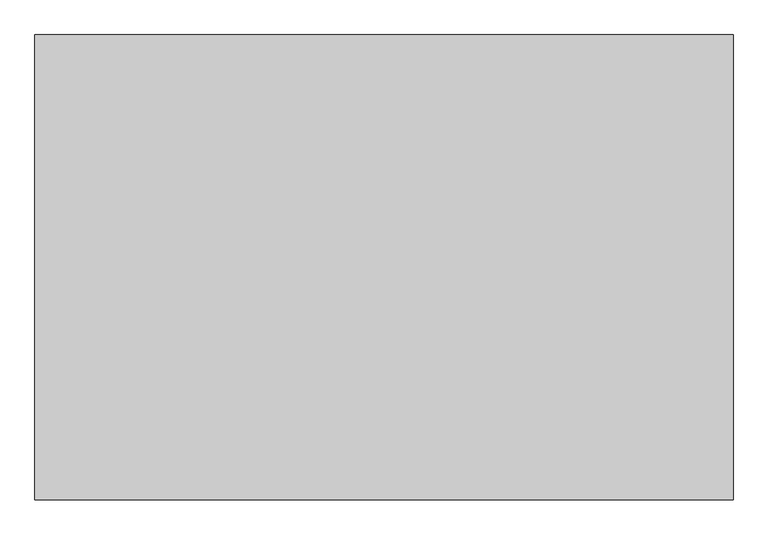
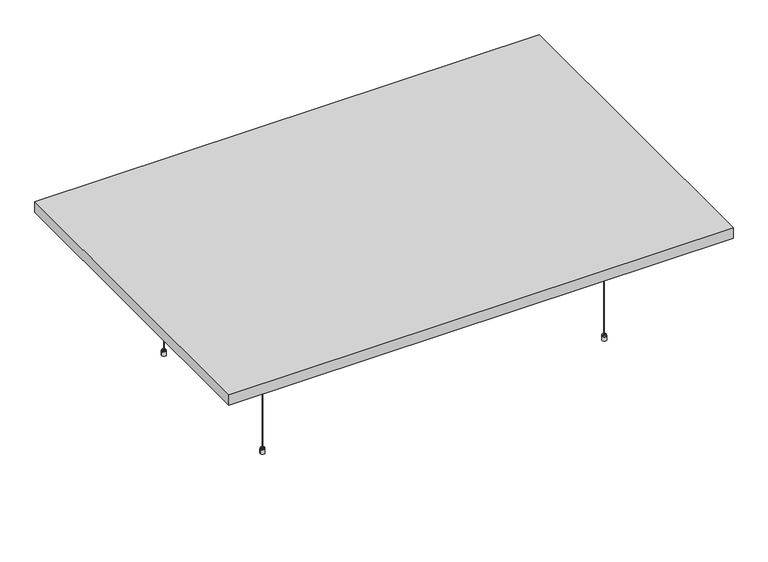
"""IFC4 building model written with IfcOpenShell, lengths in millimetres: proxy geometry, OWA Selecta : Selecta plus."""

from ifc_helpers import new_model, si_unit, point, frame, frame_2d, origin, place, context, project, spatial, polyline, circle_curve, trimmed, segment, composite_curve, outline, extrude, source, transform, mapped, element, save
from ifc_brep_helpers import plane_surface, cylinder_surface, revolved_surface, advanced_brep


def specialty_equipment_2f9c71bf(model_context):
    return source(origin(), model_context, "Body", "SolidModel", [
        advanced_brep(
        [(-1043.5, 305.0, 0.0), (-1035.7593825, 305.0, 0.0), (-1051.2406175, 305.0, 0.0), (-1035.7593825, 305.0, 15.0), (-1051.2406175, 305.0, 15.0), (-1036.6843825, 305.0, 15.0), (-1050.3156175, 305.0, 15.0), (-1036.6843825, 305.0, 19.0), (-1050.3156175, 305.0, 19.0), (-1041.4343825, 305.0, 19.0), (-1045.5656175, 305.0, 19.0), (-1041.4343825, 305.0, 22.546183), (-1045.5656175, 305.0, 22.546183), (-1043.5, 305.0, 22.546183)],
        [
            (0, 1),
            (1, 2, circle_curve(frame((-1043.5, 305.0, 0.0), z_axis=(0.0, 0.0, -1.0), x_axis=(-1.0, 0.0, 0.0)), 7.7406175)),
            (2, 0),
            (2, 1, circle_curve(frame((-1043.5, 305.0, 0.0), z_axis=(0.0, 0.0, -1.0), x_axis=(-1.0, 0.0, 0.0)), 7.7406175)),
            (1, 3),
            (3, 4, circle_curve(frame((-1043.5, 305.0, 15.0), z_axis=(0.0, 0.0, -1.0), x_axis=(-1.0, 0.0, 0.0)), 7.7406175)),
            (4, 2),
            (4, 3, circle_curve(frame((-1043.5, 305.0, 15.0), z_axis=(0.0, 0.0, -1.0), x_axis=(-1.0, 0.0, 0.0)), 7.7406175)),
            (3, 5),
            (5, 6, circle_curve(frame((-1043.5, 305.0, 15.0), z_axis=(0.0, 0.0, -1.0), x_axis=(-1.0, 0.0, 0.0)), 6.8156175)),
            (6, 4),
            (6, 5, circle_curve(frame((-1043.5, 305.0, 15.0), z_axis=(0.0, 0.0, -1.0), x_axis=(-1.0, 0.0, 0.0)), 6.8156175)),
            (5, 7),
            (7, 8, circle_curve(frame((-1043.5, 305.0, 19.0), z_axis=(0.0, 0.0, -1.0), x_axis=(-1.0, 0.0, 0.0)), 6.8156175)),
            (8, 6),
            (8, 7, circle_curve(frame((-1043.5, 305.0, 19.0), z_axis=(0.0, 0.0, -1.0), x_axis=(-1.0, 0.0, 0.0)), 6.8156175)),
            (7, 9),
            (9, 10, circle_curve(frame((-1043.5, 305.0, 19.0), z_axis=(0.0, 0.0, -1.0), x_axis=(-1.0, 0.0, 0.0)), 2.0656175)),
            (10, 8),
            (10, 9, circle_curve(frame((-1043.5, 305.0, 19.0), z_axis=(0.0, 0.0, -1.0), x_axis=(-1.0, 0.0, 0.0)), 2.0656175)),
            (9, 11),
            (11, 12, circle_curve(frame((-1043.5, 305.0, 22.546183), z_axis=(0.0, 0.0, -1.0), x_axis=(-1.0, 0.0, 0.0)), 2.0656175)),
            (12, 10),
            (12, 11, circle_curve(frame((-1043.5, 305.0, 22.546183), z_axis=(0.0, 0.0, -1.0), x_axis=(-1.0, 0.0, 0.0)), 2.0656175)),
            (11, 13),
            (13, 12),
        ],
        [
            plane_surface(frame((-1043.5, 305.0, 0.0), z_axis=(0.0, 0.0, -1.0), x_axis=(-1.0, 0.0, 0.0))),
            cylinder_surface(frame((-1043.5, 305.0, -10.0), z_axis=(0.0, 0.0, -1.0), x_axis=(-1.0, 0.0, 0.0)), 7.7406175),
            plane_surface(frame((-1043.5, 305.0, 15.0), z_axis=(0.0, 0.0, 1.0), x_axis=(-1.0, 0.0, 0.0))),
            cylinder_surface(frame((-1043.5, 305.0, -10.0), z_axis=(0.0, 0.0, -1.0), x_axis=(-1.0, 0.0, 0.0)), 6.8156175),
            plane_surface(frame((-1043.5, 305.0, 19.0), z_axis=(0.0, 0.0, 1.0), x_axis=(-1.0, 0.0, 0.0))),
            cylinder_surface(frame((-1043.5, 305.0, -10.0), z_axis=(0.0, 0.0, -1.0), x_axis=(-1.0, 0.0, 0.0)), 2.0656175),
            plane_surface(frame((-1043.5, 305.0, 22.546183), z_axis=(0.0, 0.0, 1.0), x_axis=(-1.0, 0.0, 0.0))),
        ],
        [
            (0, [[1, 2, 3]]),
            (0, [[-3, 4, -1]]),
            (1, [[5, 6, 7, -2]]),
            (1, [[-7, 8, -5, -4]]),
            (2, [[9, 10, 11, -6]]),
            (2, [[-11, 12, -9, -8]]),
            (3, [[13, 14, 15, -10]]),
            (3, [[-15, 16, -13, -12]]),
            (4, [[17, 18, 19, -14]]),
            (4, [[-19, 20, -17, -16]]),
            (5, [[21, 22, 23, -18]]),
            (5, [[-23, 24, -21, -20]]),
            (6, [[25, 26, -22]]),
            (6, [[-26, -25, -24]]),
        ],
    ),
        advanced_brep(
        [(-1041.2615389, 305.0, 428.8211737), (-1041.1339453, 305.0, 432.8711737), (-1045.8660547, 305.0, 432.8711737), (-1045.7384611, 305.0, 428.8211737), (-1038.6339453, 305.0, 432.8711737), (-1048.3660547, 305.0, 432.8711737), (-1038.6339453, 305.0, 458.1211737), (-1048.3660547, 305.0, 458.1211737), (-1027.6339453, 305.0, 458.1211737), (-1059.3660547, 305.0, 458.1211737), (-1027.6339453, 305.0, 460.0), (-1059.3660547, 305.0, 460.0), (-1043.5, 305.0, 460.0), (-1043.5, 305.0, 428.8211737)],
        [
            (0, 1),
            (1, 2, circle_curve(frame((-1043.5, 305.0, 432.8711737), z_axis=(0.0, 0.0, -1.0), x_axis=(-1.0, 0.0, 0.0)), 2.3660547)),
            (2, 3),
            (3, 0, circle_curve(frame((-1043.5, 305.0, 428.8211737), z_axis=(0.0, 0.0, 1.0), x_axis=(-1.0, 0.0, 0.0)), 2.2384611)),
            (2, 1, circle_curve(frame((-1043.5, 305.0, 432.8711737), z_axis=(0.0, 0.0, -1.0), x_axis=(-1.0, 0.0, 0.0)), 2.3660547)),
            (0, 3, circle_curve(frame((-1043.5, 305.0, 428.8211737), z_axis=(0.0, 0.0, 1.0), x_axis=(-1.0, 0.0, 0.0)), 2.2384611)),
            (1, 4),
            (4, 5, circle_curve(frame((-1043.5, 305.0, 432.8711737), z_axis=(0.0, 0.0, -1.0), x_axis=(-1.0, 0.0, 0.0)), 4.8660547)),
            (5, 2),
            (5, 4, circle_curve(frame((-1043.5, 305.0, 432.8711737), z_axis=(0.0, 0.0, -1.0), x_axis=(-1.0, 0.0, 0.0)), 4.8660547)),
            (4, 6),
            (6, 7, circle_curve(frame((-1043.5, 305.0, 458.1211737), z_axis=(0.0, 0.0, -1.0), x_axis=(-1.0, 0.0, 0.0)), 4.8660547)),
            (7, 5),
            (7, 6, circle_curve(frame((-1043.5, 305.0, 458.1211737), z_axis=(0.0, 0.0, -1.0), x_axis=(-1.0, 0.0, 0.0)), 4.8660547)),
            (6, 8),
            (8, 9, circle_curve(frame((-1043.5, 305.0, 458.1211737), z_axis=(0.0, 0.0, -1.0), x_axis=(-1.0, 0.0, 0.0)), 15.8660547)),
            (9, 7),
            (9, 8, circle_curve(frame((-1043.5, 305.0, 458.1211737), z_axis=(0.0, 0.0, -1.0), x_axis=(-1.0, 0.0, 0.0)), 15.8660547)),
            (8, 10),
            (10, 11, circle_curve(frame((-1043.5, 305.0, 460.0), z_axis=(0.0, 0.0, -1.0), x_axis=(-1.0, 0.0, 0.0)), 15.8660547)),
            (11, 9),
            (11, 10, circle_curve(frame((-1043.5, 305.0, 460.0), z_axis=(0.0, 0.0, -1.0), x_axis=(-1.0, 0.0, 0.0)), 15.8660547)),
            (10, 12),
            (12, 11),
            (13, 0),
            (3, 13),
        ],
        [
            revolved_surface(polyline([(-1045.8660547, 305.0, 432.8711737), (-1045.7384611, 305.0, 428.8211737)]), (-1043.5, 305.0, 461.8401096), (0.0, 0.0, -1.0)),
            plane_surface(frame((-1043.5, 305.0, 432.8711737), z_axis=(0.0, 0.0, -1.0), x_axis=(-1.0, 0.0, 0.0))),
            cylinder_surface(frame((-1043.5, 305.0, 461.8401096), z_axis=(0.0, 0.0, -1.0), x_axis=(-1.0, 0.0, 0.0)), 4.8660547),
            plane_surface(frame((-1043.5, 305.0, 458.1211737), z_axis=(0.0, 0.0, -1.0), x_axis=(-1.0, 0.0, 0.0))),
            cylinder_surface(frame((-1043.5, 305.0, 461.8401096), z_axis=(0.0, 0.0, -1.0), x_axis=(-1.0, 0.0, 0.0)), 15.8660547),
            plane_surface(frame((-1043.5, 305.0, 460.0), z_axis=(0.0, 0.0, 1.0), x_axis=(-1.0, 0.0, 0.0))),
            plane_surface(frame((-1043.5, 305.0, 428.8211737), z_axis=(0.0, 0.0, -1.0), x_axis=(-1.0, 0.0, 0.0))),
        ],
        [
            (0, [[1, 2, 3, 4]]),
            (0, [[-3, 5, -1, 6]]),
            (1, [[7, 8, 9, -2]]),
            (1, [[-9, 10, -7, -5]]),
            (2, [[11, 12, 13, -8]]),
            (2, [[-13, 14, -11, -10]]),
            (3, [[15, 16, 17, -12]]),
            (3, [[-17, 18, -15, -14]]),
            (4, [[19, 20, 21, -16]]),
            (4, [[-21, 22, -19, -18]]),
            (5, [[23, 24, -20]]),
            (5, [[-24, -23, -22]]),
            (6, [[25, -4, 26]]),
            (6, [[-26, -6, -25]]),
        ],
    ),
        extrude(outline(composite_curve([segment(trimmed(circle_curve(frame_2d((-1043.5, 305.0)), 1.0), [point((-1044.5, 305.0))], [point((-1042.5, 305.0))], False, "CARTESIAN"), True, "CONTINUOUS"), segment(trimmed(circle_curve(frame_2d((-1043.5, 305.0)), 1.0), [point((-1042.5, 305.0))], [point((-1044.5, 305.0))], False, "CARTESIAN"), True, "CONTINUOUS")], self_intersect=False)), frame((0.0, 0.0, 22.546183), z_axis=(0.0, 0.0, 1.0), x_axis=(1.0, 0.0, 0.0)), (0.0, 0.0, 1.0), 406.2749908),
        advanced_brep(
        [(176.5, 305.0, 0.0), (184.2406175, 305.0, 0.0), (168.7593825, 305.0, 0.0), (184.2406175, 305.0, 15.0), (168.7593825, 305.0, 15.0), (183.3156175, 305.0, 15.0), (169.6843825, 305.0, 15.0), (183.3156175, 305.0, 19.0), (169.6843825, 305.0, 19.0), (178.5656175, 305.0, 19.0), (174.4343825, 305.0, 19.0), (178.5656175, 305.0, 22.546183), (174.4343825, 305.0, 22.546183), (176.5, 305.0, 22.546183)],
        [
            (0, 1),
            (1, 2, circle_curve(frame((176.5, 305.0, 0.0), z_axis=(0.0, 0.0, -1.0), x_axis=(1.0, 0.0, 0.0)), 7.7406175)),
            (2, 0),
            (2, 1, circle_curve(frame((176.5, 305.0, 0.0), z_axis=(0.0, 0.0, -1.0), x_axis=(1.0, 0.0, 0.0)), 7.7406175)),
            (1, 3),
            (3, 4, circle_curve(frame((176.5, 305.0, 15.0), z_axis=(0.0, 0.0, -1.0), x_axis=(1.0, 0.0, 0.0)), 7.7406175)),
            (4, 2),
            (4, 3, circle_curve(frame((176.5, 305.0, 15.0), z_axis=(0.0, 0.0, -1.0), x_axis=(1.0, 0.0, 0.0)), 7.7406175)),
            (3, 5),
            (5, 6, circle_curve(frame((176.5, 305.0, 15.0), z_axis=(0.0, 0.0, -1.0), x_axis=(1.0, 0.0, 0.0)), 6.8156175)),
            (6, 4),
            (6, 5, circle_curve(frame((176.5, 305.0, 15.0), z_axis=(0.0, 0.0, -1.0), x_axis=(1.0, 0.0, 0.0)), 6.8156175)),
            (5, 7),
            (7, 8, circle_curve(frame((176.5, 305.0, 19.0), z_axis=(0.0, 0.0, -1.0), x_axis=(1.0, 0.0, 0.0)), 6.8156175)),
            (8, 6),
            (8, 7, circle_curve(frame((176.5, 305.0, 19.0), z_axis=(0.0, 0.0, -1.0), x_axis=(1.0, 0.0, 0.0)), 6.8156175)),
            (7, 9),
            (9, 10, circle_curve(frame((176.5, 305.0, 19.0), z_axis=(0.0, 0.0, -1.0), x_axis=(1.0, 0.0, 0.0)), 2.0656175)),
            (10, 8),
            (10, 9, circle_curve(frame((176.5, 305.0, 19.0), z_axis=(0.0, 0.0, -1.0), x_axis=(1.0, 0.0, 0.0)), 2.0656175)),
            (9, 11),
            (11, 12, circle_curve(frame((176.5, 305.0, 22.546183), z_axis=(0.0, 0.0, -1.0), x_axis=(1.0, 0.0, 0.0)), 2.0656175)),
            (12, 10),
            (12, 11, circle_curve(frame((176.5, 305.0, 22.546183), z_axis=(0.0, 0.0, -1.0), x_axis=(1.0, 0.0, 0.0)), 2.0656175)),
            (11, 13),
            (13, 12),
        ],
        [
            plane_surface(frame((176.5, 305.0, 0.0), z_axis=(0.0, 0.0, -1.0), x_axis=(1.0, 0.0, 0.0))),
            cylinder_surface(frame((176.5, 305.0, -10.0), z_axis=(0.0, 0.0, -1.0), x_axis=(1.0, 0.0, 0.0)), 7.7406175),
            plane_surface(frame((176.5, 305.0, 15.0), z_axis=(0.0, 0.0, 1.0), x_axis=(1.0, 0.0, 0.0))),
            cylinder_surface(frame((176.5, 305.0, -10.0), z_axis=(0.0, 0.0, -1.0), x_axis=(1.0, 0.0, 0.0)), 6.8156175),
            plane_surface(frame((176.5, 305.0, 19.0), z_axis=(0.0, 0.0, 1.0), x_axis=(1.0, 0.0, 0.0))),
            cylinder_surface(frame((176.5, 305.0, -10.0), z_axis=(0.0, 0.0, -1.0), x_axis=(1.0, 0.0, 0.0)), 2.0656175),
            plane_surface(frame((176.5, 305.0, 22.546183), z_axis=(0.0, 0.0, 1.0), x_axis=(1.0, 0.0, 0.0))),
        ],
        [
            (0, [[1, 2, 3]]),
            (0, [[-3, 4, -1]]),
            (1, [[-2, 5, 6, 7]]),
            (1, [[-4, -7, 8, -5]]),
            (2, [[-6, 9, 10, 11]]),
            (2, [[-8, -11, 12, -9]]),
            (3, [[-10, 13, 14, 15]]),
            (3, [[-12, -15, 16, -13]]),
            (4, [[-14, 17, 18, 19]]),
            (4, [[-16, -19, 20, -17]]),
            (5, [[-18, 21, 22, 23]]),
            (5, [[-20, -23, 24, -21]]),
            (6, [[-22, 25, 26]]),
            (6, [[-24, -26, -25]]),
        ],
    ),
        advanced_brep(
        [(174.2615389, 305.0, 428.8211737), (178.7384611, 305.0, 428.8211737), (178.8660547, 305.0, 432.8711737), (174.1339453, 305.0, 432.8711737), (181.3660547, 305.0, 432.8711737), (171.6339453, 305.0, 432.8711737), (181.3660547, 305.0, 458.1211737), (171.6339453, 305.0, 458.1211737), (192.3660547, 305.0, 458.1211737), (160.6339453, 305.0, 458.1211737), (192.3660547, 305.0, 460.0), (160.6339453, 305.0, 460.0), (176.5, 305.0, 460.0), (176.5, 305.0, 428.8211737)],
        [
            (0, 1, circle_curve(frame((176.5, 305.0, 428.8211737), z_axis=(0.0, 0.0, 1.0), x_axis=(1.0, 0.0, 0.0)), 2.2384611)),
            (1, 2),
            (2, 3, circle_curve(frame((176.5, 305.0, 432.8711737), z_axis=(0.0, 0.0, -1.0), x_axis=(1.0, 0.0, 0.0)), 2.3660547)),
            (3, 0),
            (1, 0, circle_curve(frame((176.5, 305.0, 428.8211737), z_axis=(0.0, 0.0, 1.0), x_axis=(1.0, 0.0, 0.0)), 2.2384611)),
            (3, 2, circle_curve(frame((176.5, 305.0, 432.8711737), z_axis=(0.0, 0.0, -1.0), x_axis=(1.0, 0.0, 0.0)), 2.3660547)),
            (2, 4),
            (4, 5, circle_curve(frame((176.5, 305.0, 432.8711737), z_axis=(0.0, 0.0, -1.0), x_axis=(1.0, 0.0, 0.0)), 4.8660547)),
            (5, 3),
            (5, 4, circle_curve(frame((176.5, 305.0, 432.8711737), z_axis=(0.0, 0.0, -1.0), x_axis=(1.0, 0.0, 0.0)), 4.8660547)),
            (4, 6),
            (6, 7, circle_curve(frame((176.5, 305.0, 458.1211737), z_axis=(0.0, 0.0, -1.0), x_axis=(1.0, 0.0, 0.0)), 4.8660547)),
            (7, 5),
            (7, 6, circle_curve(frame((176.5, 305.0, 458.1211737), z_axis=(0.0, 0.0, -1.0), x_axis=(1.0, 0.0, 0.0)), 4.8660547)),
            (6, 8),
            (8, 9, circle_curve(frame((176.5, 305.0, 458.1211737), z_axis=(0.0, 0.0, -1.0), x_axis=(1.0, 0.0, 0.0)), 15.8660547)),
            (9, 7),
            (9, 8, circle_curve(frame((176.5, 305.0, 458.1211737), z_axis=(0.0, 0.0, -1.0), x_axis=(1.0, 0.0, 0.0)), 15.8660547)),
            (8, 10),
            (10, 11, circle_curve(frame((176.5, 305.0, 460.0), z_axis=(0.0, 0.0, -1.0), x_axis=(1.0, 0.0, 0.0)), 15.8660547)),
            (11, 9),
            (11, 10, circle_curve(frame((176.5, 305.0, 460.0), z_axis=(0.0, 0.0, -1.0), x_axis=(1.0, 0.0, 0.0)), 15.8660547)),
            (10, 12),
            (12, 11),
            (13, 1),
            (0, 13),
        ],
        [
            revolved_surface(polyline([(178.8660547, 305.0, 432.8711737), (178.7384611, 305.0, 428.8211737)]), (176.5, 305.0, 461.8401096), (0.0, 0.0, -1.0)),
            plane_surface(frame((176.5, 305.0, 432.8711737), z_axis=(0.0, 0.0, -1.0), x_axis=(1.0, 0.0, 0.0))),
            cylinder_surface(frame((176.5, 305.0, 461.8401096), z_axis=(0.0, 0.0, -1.0), x_axis=(1.0, 0.0, 0.0)), 4.8660547),
            plane_surface(frame((176.5, 305.0, 458.1211737), z_axis=(0.0, 0.0, -1.0), x_axis=(1.0, 0.0, 0.0))),
            cylinder_surface(frame((176.5, 305.0, 461.8401096), z_axis=(0.0, 0.0, -1.0), x_axis=(1.0, 0.0, 0.0)), 15.8660547),
            plane_surface(frame((176.5, 305.0, 460.0), z_axis=(0.0, 0.0, 1.0), x_axis=(1.0, 0.0, 0.0))),
            plane_surface(frame((176.5, 305.0, 428.8211737), z_axis=(0.0, 0.0, -1.0), x_axis=(1.0, 0.0, 0.0))),
        ],
        [
            (0, [[1, 2, 3, 4]]),
            (0, [[5, -4, 6, -2]]),
            (1, [[-3, 7, 8, 9]]),
            (1, [[-6, -9, 10, -7]]),
            (2, [[-8, 11, 12, 13]]),
            (2, [[-10, -13, 14, -11]]),
            (3, [[-12, 15, 16, 17]]),
            (3, [[-14, -17, 18, -15]]),
            (4, [[-16, 19, 20, 21]]),
            (4, [[-18, -21, 22, -19]]),
            (5, [[-20, 23, 24]]),
            (5, [[-22, -24, -23]]),
            (6, [[25, -1, 26]]),
            (6, [[-26, -5, -25]]),
        ],
    ),
        extrude(outline(composite_curve([segment(trimmed(circle_curve(frame_2d((176.5, 305.0)), 1.0), [point((177.5, 305.0))], [point((175.5, 305.0))], False, "CARTESIAN"), True, "CONTINUOUS"), segment(trimmed(circle_curve(frame_2d((176.5, 305.0)), 1.0), [point((175.5, 305.0))], [point((177.5, 305.0))], False, "CARTESIAN"), True, "CONTINUOUS")], self_intersect=False)), frame((0.0, 0.0, 22.546183), z_axis=(0.0, 0.0, 1.0), x_axis=(1.0, 0.0, 0.0)), (0.0, 0.0, 1.0), 406.2749908),
        advanced_brep(
        [(176.5, -305.0, 0.0), (168.7593825, -305.0, 0.0), (184.2406175, -305.0, 0.0), (168.7593825, -305.0, 15.0), (184.2406175, -305.0, 15.0), (169.6843825, -305.0, 15.0), (183.3156175, -305.0, 15.0), (169.6843825, -305.0, 19.0), (183.3156175, -305.0, 19.0), (174.4343825, -305.0, 19.0), (178.5656175, -305.0, 19.0), (174.4343825, -305.0, 22.546183), (178.5656175, -305.0, 22.546183), (176.5, -305.0, 22.546183)],
        [
            (0, 1),
            (1, 2, circle_curve(frame((176.5, -305.0, 0.0), z_axis=(0.0, 0.0, -1.0), x_axis=(1.0, 0.0, 0.0)), 7.7406175)),
            (2, 0),
            (2, 1, circle_curve(frame((176.5, -305.0, 0.0), z_axis=(0.0, 0.0, -1.0), x_axis=(1.0, 0.0, 0.0)), 7.7406175)),
            (1, 3),
            (3, 4, circle_curve(frame((176.5, -305.0, 15.0), z_axis=(0.0, 0.0, -1.0), x_axis=(1.0, 0.0, 0.0)), 7.7406175)),
            (4, 2),
            (4, 3, circle_curve(frame((176.5, -305.0, 15.0), z_axis=(0.0, 0.0, -1.0), x_axis=(1.0, 0.0, 0.0)), 7.7406175)),
            (3, 5),
            (5, 6, circle_curve(frame((176.5, -305.0, 15.0), z_axis=(0.0, 0.0, -1.0), x_axis=(1.0, 0.0, 0.0)), 6.8156175)),
            (6, 4),
            (6, 5, circle_curve(frame((176.5, -305.0, 15.0), z_axis=(0.0, 0.0, -1.0), x_axis=(1.0, 0.0, 0.0)), 6.8156175)),
            (5, 7),
            (7, 8, circle_curve(frame((176.5, -305.0, 19.0), z_axis=(0.0, 0.0, -1.0), x_axis=(1.0, 0.0, 0.0)), 6.8156175)),
            (8, 6),
            (8, 7, circle_curve(frame((176.5, -305.0, 19.0), z_axis=(0.0, 0.0, -1.0), x_axis=(1.0, 0.0, 0.0)), 6.8156175)),
            (7, 9),
            (9, 10, circle_curve(frame((176.5, -305.0, 19.0), z_axis=(0.0, 0.0, -1.0), x_axis=(1.0, 0.0, 0.0)), 2.0656175)),
            (10, 8),
            (10, 9, circle_curve(frame((176.5, -305.0, 19.0), z_axis=(0.0, 0.0, -1.0), x_axis=(1.0, 0.0, 0.0)), 2.0656175)),
            (9, 11),
            (11, 12, circle_curve(frame((176.5, -305.0, 22.546183), z_axis=(0.0, 0.0, -1.0), x_axis=(1.0, 0.0, 0.0)), 2.0656175)),
            (12, 10),
            (12, 11, circle_curve(frame((176.5, -305.0, 22.546183), z_axis=(0.0, 0.0, -1.0), x_axis=(1.0, 0.0, 0.0)), 2.0656175)),
            (11, 13),
            (13, 12),
        ],
        [
            plane_surface(frame((176.5, -305.0, 0.0), z_axis=(0.0, 0.0, -1.0), x_axis=(1.0, 0.0, 0.0))),
            cylinder_surface(frame((176.5, -305.0, -10.0), z_axis=(0.0, 0.0, -1.0), x_axis=(1.0, 0.0, 0.0)), 7.7406175),
            plane_surface(frame((176.5, -305.0, 15.0), z_axis=(0.0, 0.0, 1.0), x_axis=(1.0, 0.0, 0.0))),
            cylinder_surface(frame((176.5, -305.0, -10.0), z_axis=(0.0, 0.0, -1.0), x_axis=(1.0, 0.0, 0.0)), 6.8156175),
            plane_surface(frame((176.5, -305.0, 19.0), z_axis=(0.0, 0.0, 1.0), x_axis=(1.0, 0.0, 0.0))),
            cylinder_surface(frame((176.5, -305.0, -10.0), z_axis=(0.0, 0.0, -1.0), x_axis=(1.0, 0.0, 0.0)), 2.0656175),
            plane_surface(frame((176.5, -305.0, 22.546183), z_axis=(0.0, 0.0, 1.0), x_axis=(1.0, 0.0, 0.0))),
        ],
        [
            (0, [[1, 2, 3]]),
            (0, [[-3, 4, -1]]),
            (1, [[5, 6, 7, -2]]),
            (1, [[-7, 8, -5, -4]]),
            (2, [[9, 10, 11, -6]]),
            (2, [[-11, 12, -9, -8]]),
            (3, [[13, 14, 15, -10]]),
            (3, [[-15, 16, -13, -12]]),
            (4, [[17, 18, 19, -14]]),
            (4, [[-19, 20, -17, -16]]),
            (5, [[21, 22, 23, -18]]),
            (5, [[-23, 24, -21, -20]]),
            (6, [[25, 26, -22]]),
            (6, [[-26, -25, -24]]),
        ],
    ),
        advanced_brep(
        [(174.2615389, -305.0, 428.8211737), (174.1339453, -305.0, 432.8711737), (178.8660547, -305.0, 432.8711737), (178.7384611, -305.0, 428.8211737), (171.6339453, -305.0, 432.8711737), (181.3660547, -305.0, 432.8711737), (171.6339453, -305.0, 458.1211737), (181.3660547, -305.0, 458.1211737), (160.6339453, -305.0, 458.1211737), (192.3660547, -305.0, 458.1211737), (160.6339453, -305.0, 460.0), (192.3660547, -305.0, 460.0), (176.5, -305.0, 460.0), (176.5, -305.0, 428.8211737)],
        [
            (0, 1),
            (1, 2, circle_curve(frame((176.5, -305.0, 432.8711737), z_axis=(0.0, 0.0, -1.0), x_axis=(1.0, 0.0, 0.0)), 2.3660547)),
            (2, 3),
            (3, 0, circle_curve(frame((176.5, -305.0, 428.8211737), z_axis=(0.0, 0.0, 1.0), x_axis=(1.0, 0.0, 0.0)), 2.2384611)),
            (2, 1, circle_curve(frame((176.5, -305.0, 432.8711737), z_axis=(0.0, 0.0, -1.0), x_axis=(1.0, 0.0, 0.0)), 2.3660547)),
            (0, 3, circle_curve(frame((176.5, -305.0, 428.8211737), z_axis=(0.0, 0.0, 1.0), x_axis=(1.0, 0.0, 0.0)), 2.2384611)),
            (1, 4),
            (4, 5, circle_curve(frame((176.5, -305.0, 432.8711737), z_axis=(0.0, 0.0, -1.0), x_axis=(1.0, 0.0, 0.0)), 4.8660547)),
            (5, 2),
            (5, 4, circle_curve(frame((176.5, -305.0, 432.8711737), z_axis=(0.0, 0.0, -1.0), x_axis=(1.0, 0.0, 0.0)), 4.8660547)),
            (4, 6),
            (6, 7, circle_curve(frame((176.5, -305.0, 458.1211737), z_axis=(0.0, 0.0, -1.0), x_axis=(1.0, 0.0, 0.0)), 4.8660547)),
            (7, 5),
            (7, 6, circle_curve(frame((176.5, -305.0, 458.1211737), z_axis=(0.0, 0.0, -1.0), x_axis=(1.0, 0.0, 0.0)), 4.8660547)),
            (6, 8),
            (8, 9, circle_curve(frame((176.5, -305.0, 458.1211737), z_axis=(0.0, 0.0, -1.0), x_axis=(1.0, 0.0, 0.0)), 15.8660547)),
            (9, 7),
            (9, 8, circle_curve(frame((176.5, -305.0, 458.1211737), z_axis=(0.0, 0.0, -1.0), x_axis=(1.0, 0.0, 0.0)), 15.8660547)),
            (8, 10),
            (10, 11, circle_curve(frame((176.5, -305.0, 460.0), z_axis=(0.0, 0.0, -1.0), x_axis=(1.0, 0.0, 0.0)), 15.8660547)),
            (11, 9),
            (11, 10, circle_curve(frame((176.5, -305.0, 460.0), z_axis=(0.0, 0.0, -1.0), x_axis=(1.0, 0.0, 0.0)), 15.8660547)),
            (10, 12),
            (12, 11),
            (13, 0),
            (3, 13),
        ],
        [
            revolved_surface(polyline([(178.8660547, -305.0, 432.8711737), (178.7384611, -305.0, 428.8211737)]), (176.5, -305.0, 461.8401096), (0.0, 0.0, -1.0)),
            plane_surface(frame((176.5, -305.0, 432.8711737), z_axis=(0.0, 0.0, -1.0), x_axis=(1.0, 0.0, 0.0))),
            cylinder_surface(frame((176.5, -305.0, 461.8401096), z_axis=(0.0, 0.0, -1.0), x_axis=(1.0, 0.0, 0.0)), 4.8660547),
            plane_surface(frame((176.5, -305.0, 458.1211737), z_axis=(0.0, 0.0, -1.0), x_axis=(1.0, 0.0, 0.0))),
            cylinder_surface(frame((176.5, -305.0, 461.8401096), z_axis=(0.0, 0.0, -1.0), x_axis=(1.0, 0.0, 0.0)), 15.8660547),
            plane_surface(frame((176.5, -305.0, 460.0), z_axis=(0.0, 0.0, 1.0), x_axis=(1.0, 0.0, 0.0))),
            plane_surface(frame((176.5, -305.0, 428.8211737), z_axis=(0.0, 0.0, -1.0), x_axis=(1.0, 0.0, 0.0))),
        ],
        [
            (0, [[1, 2, 3, 4]]),
            (0, [[-3, 5, -1, 6]]),
            (1, [[7, 8, 9, -2]]),
            (1, [[-9, 10, -7, -5]]),
            (2, [[11, 12, 13, -8]]),
            (2, [[-13, 14, -11, -10]]),
            (3, [[15, 16, 17, -12]]),
            (3, [[-17, 18, -15, -14]]),
            (4, [[19, 20, 21, -16]]),
            (4, [[-21, 22, -19, -18]]),
            (5, [[23, 24, -20]]),
            (5, [[-24, -23, -22]]),
            (6, [[25, -4, 26]]),
            (6, [[-26, -6, -25]]),
        ],
    ),
        extrude(outline(composite_curve([segment(trimmed(circle_curve(frame_2d((176.5, -305.0)), 1.0), [point((177.5, -305.0))], [point((175.5, -305.0))], False, "CARTESIAN"), True, "CONTINUOUS"), segment(trimmed(circle_curve(frame_2d((176.5, -305.0)), 1.0), [point((175.5, -305.0))], [point((177.5, -305.0))], False, "CARTESIAN"), True, "CONTINUOUS")], self_intersect=False)), frame((0.0, 0.0, 22.546183), z_axis=(0.0, 0.0, 1.0), x_axis=(1.0, 0.0, 0.0)), (0.0, 0.0, 1.0), 406.2749908),
        advanced_brep(
        [(-1043.5, -305.0, 0.0), (-1051.2406175, -305.0, 0.0), (-1035.7593825, -305.0, 0.0), (-1051.2406175, -305.0, 15.0), (-1035.7593825, -305.0, 15.0), (-1050.3156175, -305.0, 15.0), (-1036.6843825, -305.0, 15.0), (-1050.3156175, -305.0, 19.0), (-1036.6843825, -305.0, 19.0), (-1045.5656175, -305.0, 19.0), (-1041.4343825, -305.0, 19.0), (-1045.5656175, -305.0, 22.546183), (-1041.4343825, -305.0, 22.546183), (-1043.5, -305.0, 22.546183)],
        [
            (0, 1),
            (1, 2, circle_curve(frame((-1043.5, -305.0, 0.0), z_axis=(0.0, 0.0, -1.0), x_axis=(-1.0, 0.0, 0.0)), 7.7406175)),
            (2, 0),
            (2, 1, circle_curve(frame((-1043.5, -305.0, 0.0), z_axis=(0.0, 0.0, -1.0), x_axis=(-1.0, 0.0, 0.0)), 7.7406175)),
            (1, 3),
            (3, 4, circle_curve(frame((-1043.5, -305.0, 15.0), z_axis=(0.0, 0.0, -1.0), x_axis=(-1.0, 0.0, 0.0)), 7.7406175)),
            (4, 2),
            (4, 3, circle_curve(frame((-1043.5, -305.0, 15.0), z_axis=(0.0, 0.0, -1.0), x_axis=(-1.0, 0.0, 0.0)), 7.7406175)),
            (3, 5),
            (5, 6, circle_curve(frame((-1043.5, -305.0, 15.0), z_axis=(0.0, 0.0, -1.0), x_axis=(-1.0, 0.0, 0.0)), 6.8156175)),
            (6, 4),
            (6, 5, circle_curve(frame((-1043.5, -305.0, 15.0), z_axis=(0.0, 0.0, -1.0), x_axis=(-1.0, 0.0, 0.0)), 6.8156175)),
            (5, 7),
            (7, 8, circle_curve(frame((-1043.5, -305.0, 19.0), z_axis=(0.0, 0.0, -1.0), x_axis=(-1.0, 0.0, 0.0)), 6.8156175)),
            (8, 6),
            (8, 7, circle_curve(frame((-1043.5, -305.0, 19.0), z_axis=(0.0, 0.0, -1.0), x_axis=(-1.0, 0.0, 0.0)), 6.8156175)),
            (7, 9),
            (9, 10, circle_curve(frame((-1043.5, -305.0, 19.0), z_axis=(0.0, 0.0, -1.0), x_axis=(-1.0, 0.0, 0.0)), 2.0656175)),
            (10, 8),
            (10, 9, circle_curve(frame((-1043.5, -305.0, 19.0), z_axis=(0.0, 0.0, -1.0), x_axis=(-1.0, 0.0, 0.0)), 2.0656175)),
            (9, 11),
            (11, 12, circle_curve(frame((-1043.5, -305.0, 22.546183), z_axis=(0.0, 0.0, -1.0), x_axis=(-1.0, 0.0, 0.0)), 2.0656175)),
            (12, 10),
            (12, 11, circle_curve(frame((-1043.5, -305.0, 22.546183), z_axis=(0.0, 0.0, -1.0), x_axis=(-1.0, 0.0, 0.0)), 2.0656175)),
            (11, 13),
            (13, 12),
        ],
        [
            plane_surface(frame((-1043.5, -305.0, 0.0), z_axis=(0.0, 0.0, -1.0), x_axis=(-1.0, 0.0, 0.0))),
            cylinder_surface(frame((-1043.5, -305.0, -10.0), z_axis=(0.0, 0.0, -1.0), x_axis=(-1.0, 0.0, 0.0)), 7.7406175),
            plane_surface(frame((-1043.5, -305.0, 15.0), z_axis=(0.0, 0.0, 1.0), x_axis=(-1.0, 0.0, 0.0))),
            cylinder_surface(frame((-1043.5, -305.0, -10.0), z_axis=(0.0, 0.0, -1.0), x_axis=(-1.0, 0.0, 0.0)), 6.8156175),
            plane_surface(frame((-1043.5, -305.0, 19.0), z_axis=(0.0, 0.0, 1.0), x_axis=(-1.0, 0.0, 0.0))),
            cylinder_surface(frame((-1043.5, -305.0, -10.0), z_axis=(0.0, 0.0, -1.0), x_axis=(-1.0, 0.0, 0.0)), 2.0656175),
            plane_surface(frame((-1043.5, -305.0, 22.546183), z_axis=(0.0, 0.0, 1.0), x_axis=(-1.0, 0.0, 0.0))),
        ],
        [
            (0, [[1, 2, 3]]),
            (0, [[-3, 4, -1]]),
            (1, [[-2, 5, 6, 7]]),
            (1, [[-4, -7, 8, -5]]),
            (2, [[-6, 9, 10, 11]]),
            (2, [[-8, -11, 12, -9]]),
            (3, [[-10, 13, 14, 15]]),
            (3, [[-12, -15, 16, -13]]),
            (4, [[-14, 17, 18, 19]]),
            (4, [[-16, -19, 20, -17]]),
            (5, [[-18, 21, 22, 23]]),
            (5, [[-20, -23, 24, -21]]),
            (6, [[-22, 25, 26]]),
            (6, [[-24, -26, -25]]),
        ],
    ),
        advanced_brep(
        [(-1041.2615389, -305.0, 428.8211737), (-1045.7384611, -305.0, 428.8211737), (-1045.8660547, -305.0, 432.8711737), (-1041.1339453, -305.0, 432.8711737), (-1048.3660547, -305.0, 432.8711737), (-1038.6339453, -305.0, 432.8711737), (-1048.3660547, -305.0, 458.1211737), (-1038.6339453, -305.0, 458.1211737), (-1059.3660547, -305.0, 458.1211737), (-1027.6339453, -305.0, 458.1211737), (-1059.3660547, -305.0, 460.0), (-1027.6339453, -305.0, 460.0), (-1043.5, -305.0, 460.0), (-1043.5, -305.0, 428.8211737)],
        [
            (0, 1, circle_curve(frame((-1043.5, -305.0, 428.8211737), z_axis=(0.0, 0.0, 1.0), x_axis=(-1.0, 0.0, 0.0)), 2.2384611)),
            (1, 2),
            (2, 3, circle_curve(frame((-1043.5, -305.0, 432.8711737), z_axis=(0.0, 0.0, -1.0), x_axis=(-1.0, 0.0, 0.0)), 2.3660547)),
            (3, 0),
            (1, 0, circle_curve(frame((-1043.5, -305.0, 428.8211737), z_axis=(0.0, 0.0, 1.0), x_axis=(-1.0, 0.0, 0.0)), 2.2384611)),
            (3, 2, circle_curve(frame((-1043.5, -305.0, 432.8711737), z_axis=(0.0, 0.0, -1.0), x_axis=(-1.0, 0.0, 0.0)), 2.3660547)),
            (2, 4),
            (4, 5, circle_curve(frame((-1043.5, -305.0, 432.8711737), z_axis=(0.0, 0.0, -1.0), x_axis=(-1.0, 0.0, 0.0)), 4.8660547)),
            (5, 3),
            (5, 4, circle_curve(frame((-1043.5, -305.0, 432.8711737), z_axis=(0.0, 0.0, -1.0), x_axis=(-1.0, 0.0, 0.0)), 4.8660547)),
            (4, 6),
            (6, 7, circle_curve(frame((-1043.5, -305.0, 458.1211737), z_axis=(0.0, 0.0, -1.0), x_axis=(-1.0, 0.0, 0.0)), 4.8660547)),
            (7, 5),
            (7, 6, circle_curve(frame((-1043.5, -305.0, 458.1211737), z_axis=(0.0, 0.0, -1.0), x_axis=(-1.0, 0.0, 0.0)), 4.8660547)),
            (6, 8),
            (8, 9, circle_curve(frame((-1043.5, -305.0, 458.1211737), z_axis=(0.0, 0.0, -1.0), x_axis=(-1.0, 0.0, 0.0)), 15.8660547)),
            (9, 7),
            (9, 8, circle_curve(frame((-1043.5, -305.0, 458.1211737), z_axis=(0.0, 0.0, -1.0), x_axis=(-1.0, 0.0, 0.0)), 15.8660547)),
            (8, 10),
            (10, 11, circle_curve(frame((-1043.5, -305.0, 460.0), z_axis=(0.0, 0.0, -1.0), x_axis=(-1.0, 0.0, 0.0)), 15.8660547)),
            (11, 9),
            (11, 10, circle_curve(frame((-1043.5, -305.0, 460.0), z_axis=(0.0, 0.0, -1.0), x_axis=(-1.0, 0.0, 0.0)), 15.8660547)),
            (10, 12),
            (12, 11),
            (13, 1),
            (0, 13),
        ],
        [
            revolved_surface(polyline([(-1045.8660547, -305.0, 432.8711737), (-1045.7384611, -305.0, 428.8211737)]), (-1043.5, -305.0, 461.8401096), (0.0, 0.0, -1.0)),
            plane_surface(frame((-1043.5, -305.0, 432.8711737), z_axis=(0.0, 0.0, -1.0), x_axis=(-1.0, 0.0, 0.0))),
            cylinder_surface(frame((-1043.5, -305.0, 461.8401096), z_axis=(0.0, 0.0, -1.0), x_axis=(-1.0, 0.0, 0.0)), 4.8660547),
            plane_surface(frame((-1043.5, -305.0, 458.1211737), z_axis=(0.0, 0.0, -1.0), x_axis=(-1.0, 0.0, 0.0))),
            cylinder_surface(frame((-1043.5, -305.0, 461.8401096), z_axis=(0.0, 0.0, -1.0), x_axis=(-1.0, 0.0, 0.0)), 15.8660547),
            plane_surface(frame((-1043.5, -305.0, 460.0), z_axis=(0.0, 0.0, 1.0), x_axis=(-1.0, 0.0, 0.0))),
            plane_surface(frame((-1043.5, -305.0, 428.8211737), z_axis=(0.0, 0.0, -1.0), x_axis=(-1.0, 0.0, 0.0))),
        ],
        [
            (0, [[1, 2, 3, 4]]),
            (0, [[5, -4, 6, -2]]),
            (1, [[-3, 7, 8, 9]]),
            (1, [[-6, -9, 10, -7]]),
            (2, [[-8, 11, 12, 13]]),
            (2, [[-10, -13, 14, -11]]),
            (3, [[-12, 15, 16, 17]]),
            (3, [[-14, -17, 18, -15]]),
            (4, [[-16, 19, 20, 21]]),
            (4, [[-18, -21, 22, -19]]),
            (5, [[-20, 23, 24]]),
            (5, [[-22, -24, -23]]),
            (6, [[25, -1, 26]]),
            (6, [[-26, -5, -25]]),
        ],
    ),
        extrude(outline(composite_curve([segment(trimmed(circle_curve(frame_2d((-1043.5, -305.0)), 1.0), [point((-1044.5, -305.0))], [point((-1042.5, -305.0))], False, "CARTESIAN"), True, "CONTINUOUS"), segment(trimmed(circle_curve(frame_2d((-1043.5, -305.0)), 1.0), [point((-1042.5, -305.0))], [point((-1044.5, -305.0))], False, "CARTESIAN"), True, "CONTINUOUS")], self_intersect=False)), frame((0.0, 0.0, 22.546183), z_axis=(0.0, 0.0, 1.0), x_axis=(1.0, 0.0, 0.0)), (0.0, 0.0, 1.0), 406.2749908),
        extrude(outline(polyline([(466.5, 600.0), (466.5, -600.0), (-1333.5, -600.0), (-1333.5, 600.0), (466.5, 600.0)])), frame((0.0, 0.0, 460.0), z_axis=(0.0, 0.0, 1.0), x_axis=(1.0, 0.0, 0.0)), (0.0, 0.0, 1.0), 40.0),
    ])


if __name__ == "__main__":
    model = new_model("IFC4")
    model_context = context("Model", 3, world=origin())
    ifc_project = project(units=[si_unit("LENGTHUNIT", "METRE", prefix="MILLI")], contexts=[model_context])
    site = spatial("IfcSite", under=ifc_project)
    building = spatial("IfcBuilding", under=site)
    placement = place(None, origin())
    specialty_equipment_shape = specialty_equipment_2f9c71bf(model_context)
    element("IfcBuildingElementProxy", 1, Name="OWA Selecta : Selecta plus", ObjectType="OWA Selecta : Selecta plus", at=placement, inside=building, context=model_context, shape_type="MappedRepresentation", body=[
        mapped(specialty_equipment_shape, transform((0.0, 0.0, 0.0), x_axis=(1.0, 0.0, 0.0), y_axis=(0.0, 1.0, 0.0), z_axis=(0.0, 0.0, 1.0))),
    ])
    save(model, "model.ifc")
